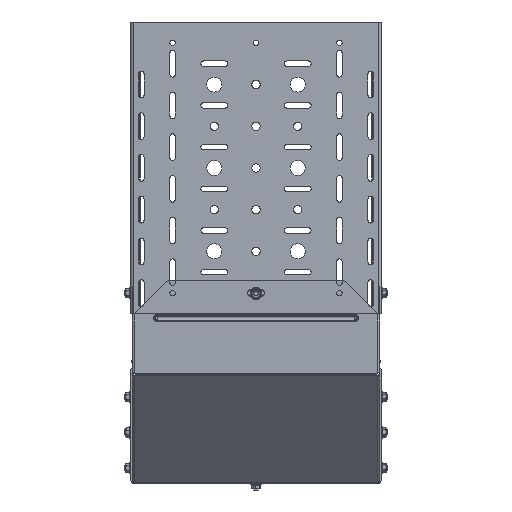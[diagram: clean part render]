
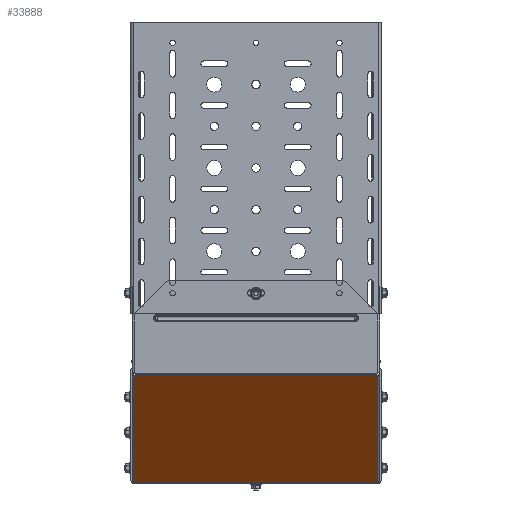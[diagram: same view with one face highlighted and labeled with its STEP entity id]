
A CAD part, front view. The second image highlights one B-rep face of the part: STEP entity #33888.
In plain terms, the highlighted planar face has unit normal (0, -0.707, -0.707) as drawn and (-0.707, -0.707, 0) by its records, which use the part's own axes.
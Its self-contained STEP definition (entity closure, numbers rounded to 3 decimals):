
#140 = VECTOR ( 'NONE', #27618, 1000. ) ;
#337 = ORIENTED_EDGE ( 'NONE', *, *, #13780, .T. ) ;
#436 = LINE ( 'NONE', #31478, #31876 ) ;
#1122 = PLANE ( 'NONE',  #16974 ) ;
#1990 = VERTEX_POINT ( 'NONE', #25770 ) ;
#2252 = ORIENTED_EDGE ( 'NONE', *, *, #17992, .F. ) ;
#2551 = EDGE_CURVE ( 'NONE', #33419, #1990, #9893, .T. ) ;
#3540 = VECTOR ( 'NONE', #38715, 1000. ) ;
#3676 = ORIENTED_EDGE ( 'NONE', *, *, #2551, .F. ) ;
#4500 = CARTESIAN_POINT ( 'NONE',  ( -65.352, 63.938, 146. ) ) ;
#6310 = CARTESIAN_POINT ( 'NONE',  ( -65.352, 63.938, 146. ) ) ;
#7459 = VERTEX_POINT ( 'NONE', #26128 ) ;
#7554 = EDGE_CURVE ( 'NONE', #36509, #23953, #27781, .T. ) ;
#7689 = DIRECTION ( 'NONE',  ( 0.707, -0.707, 0. ) ) ;
#8682 = CARTESIAN_POINT ( 'NONE',  ( -64.251, 62.837, -146. ) ) ;
#9089 = DIRECTION ( 'NONE',  ( -0.707, 0.707, 0. ) ) ;
#9119 = ORIENTED_EDGE ( 'NONE', *, *, #7554, .T. ) ;
#9253 = DIRECTION ( 'NONE',  ( 0.707, 0.707, 0. ) ) ;
#9893 = LINE ( 'NONE', #25039, #24186 ) ;
#9953 = DIRECTION ( 'NONE',  ( 0.707, 0.707, 0. ) ) ;
#13525 = DIRECTION ( 'NONE',  ( 0.707, -0.707, 0. ) ) ;
#13780 = EDGE_CURVE ( 'NONE', #33419, #7459, #20047, .T. ) ;
#14840 = CARTESIAN_POINT ( 'NONE',  ( 63.938, -65.352, 146. ) ) ;
#15725 = AXIS2_PLACEMENT_3D ( 'NONE', #23835, #23787, #23780 ) ;
#16381 = VERTEX_POINT ( 'NONE', #32588 ) ;
#16684 = LINE ( 'NONE', #6310, #140 ) ;
#16974 = AXIS2_PLACEMENT_3D ( 'NONE', #4500, #25918, #7689 ) ;
#17314 = EDGE_CURVE ( 'NONE', #35150, #23953, #34912, .T. ) ;
#17357 = ORIENTED_EDGE ( 'NONE', *, *, #17314, .F. ) ;
#17827 = CARTESIAN_POINT ( 'NONE',  ( 64.493, -65.907, 146.876 ) ) ;
#17992 = EDGE_CURVE ( 'NONE', #16381, #7459, #16684, .T. ) ;
#18239 = CIRCLE ( 'NONE', #36220, 2.5 ) ;
#18313 = ORIENTED_EDGE ( 'NONE', *, *, #27843, .T. ) ;
#18358 = CARTESIAN_POINT ( 'NONE',  ( 62.837, -64.251, -146. ) ) ;
#20047 = CIRCLE ( 'NONE', #36161, 2.5 ) ;
#20187 = AXIS2_PLACEMENT_3D ( 'NONE', #17827, #38582, #20807 ) ;
#20807 = DIRECTION ( 'NONE',  ( 0.707, -0.707, 0. ) ) ;
#21280 = CARTESIAN_POINT ( 'NONE',  ( -65.907, 64.493, 146.876 ) ) ;
#23780 = DIRECTION ( 'NONE',  ( -0.707, 0.707, 0. ) ) ;
#23787 = DIRECTION ( 'NONE',  ( 0.707, 0.707, 0. ) ) ;
#23835 = CARTESIAN_POINT ( 'NONE',  ( 64.493, -65.907, -146.876 ) ) ;
#23953 = VERTEX_POINT ( 'NONE', #24201 ) ;
#24027 = EDGE_CURVE ( 'NONE', #16381, #28615, #18239, .T. ) ;
#24186 = VECTOR ( 'NONE', #38666, 1000. ) ;
#24201 = CARTESIAN_POINT ( 'NONE',  ( 63.938, -65.352, -144.502 ) ) ;
#25039 = CARTESIAN_POINT ( 'NONE',  ( 63.938, -65.352, 146. ) ) ;
#25770 = CARTESIAN_POINT ( 'NONE',  ( 62.837, -64.251, 146. ) ) ;
#25918 = DIRECTION ( 'NONE',  ( -0.707, -0.707, 0. ) ) ;
#26128 = CARTESIAN_POINT ( 'NONE',  ( -65.352, 63.938, 144.502 ) ) ;
#27618 = DIRECTION ( 'NONE',  ( 0., 0., 1. ) ) ;
#27781 = CIRCLE ( 'NONE', #15725, 2.5 ) ;
#27843 = EDGE_CURVE ( 'NONE', #35150, #1990, #31366, .T. ) ;
#28075 = CARTESIAN_POINT ( 'NONE',  ( -65.907, 64.493, -146.876 ) ) ;
#28552 = ORIENTED_EDGE ( 'NONE', *, *, #37996, .T. ) ;
#28615 = VERTEX_POINT ( 'NONE', #8682 ) ;
#29425 = CARTESIAN_POINT ( 'NONE',  ( 63.938, -65.352, 144.502 ) ) ;
#31042 = DIRECTION ( 'NONE',  ( -0.707, 0.707, 0. ) ) ;
#31366 = CIRCLE ( 'NONE', #20187, 2.5 ) ;
#31478 = CARTESIAN_POINT ( 'NONE',  ( 63.938, -65.352, -146. ) ) ;
#31876 = VECTOR ( 'NONE', #13525, 1000. ) ;
#32588 = CARTESIAN_POINT ( 'NONE',  ( -65.352, 63.938, -144.502 ) ) ;
#32911 = CARTESIAN_POINT ( 'NONE',  ( -64.251, 62.837, 146. ) ) ;
#33419 = VERTEX_POINT ( 'NONE', #32911 ) ;
#33888 = ADVANCED_FACE ( 'NONE', ( #36733 ), #1122, .T. ) ;
#34580 = ORIENTED_EDGE ( 'NONE', *, *, #24027, .T. ) ;
#34912 = LINE ( 'NONE', #14840, #3540 ) ;
#35150 = VERTEX_POINT ( 'NONE', #29425 ) ;
#35736 = EDGE_LOOP ( 'NONE', ( #17357, #18313, #3676, #337, #2252, #34580, #28552, #9119 ) ) ;
#36161 = AXIS2_PLACEMENT_3D ( 'NONE', #21280, #9253, #9089 ) ;
#36220 = AXIS2_PLACEMENT_3D ( 'NONE', #28075, #9953, #31042 ) ;
#36509 = VERTEX_POINT ( 'NONE', #18358 ) ;
#36733 = FACE_OUTER_BOUND ( 'NONE', #35736, .T. ) ;
#37996 = EDGE_CURVE ( 'NONE', #28615, #36509, #436, .T. ) ;
#38582 = DIRECTION ( 'NONE',  ( 0.707, 0.707, 0. ) ) ;
#38666 = DIRECTION ( 'NONE',  ( 0.707, -0.707, 0. ) ) ;
#38715 = DIRECTION ( 'NONE',  ( 0., 0., -1. ) ) ;
